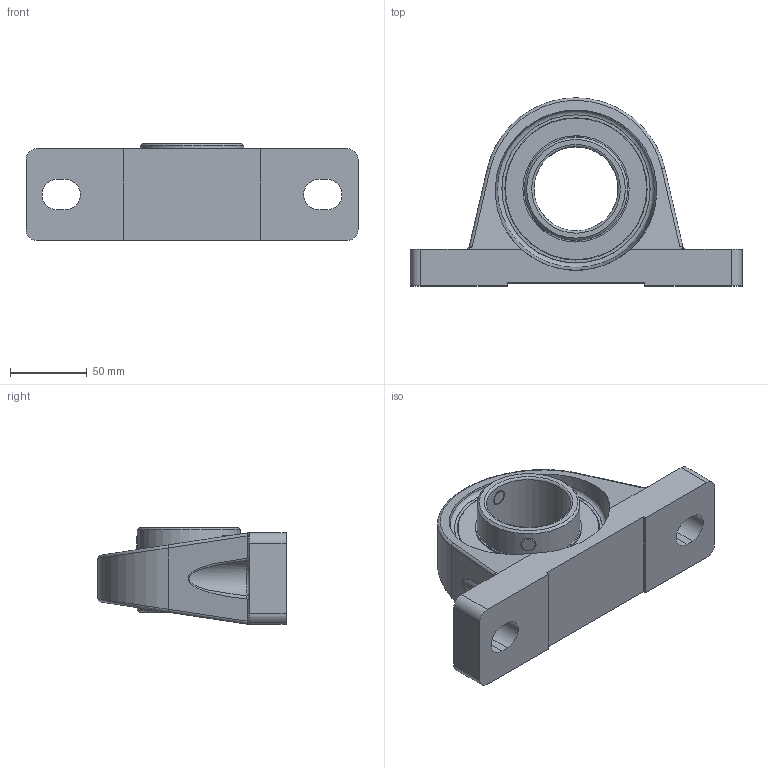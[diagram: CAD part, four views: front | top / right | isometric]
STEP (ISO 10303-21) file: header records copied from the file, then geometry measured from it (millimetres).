
FILE_DESCRIPTION(/* description */ (''),/* implementation_level */ '2;1');
FILE_NAME(/* name */ 'C:\MOJE SUBORY\03_Doplnenie 3D modelov\nove\sgc_hotove\SGC211.stp',/* time_stamp */ '2023-06-29T10:10:26+02:00',/* author */ ('OUPIONTEKM'),/* organization */ (''),/* preprocessor_version */ 'ST-DEVELOPER v19',/* originating_system */ 'Autodesk Inventor 2023',/* authorisation */ '');
FILE_SCHEMA (('AUTOMOTIVE_DESIGN { 1 0 10303 214 3 1 1 }'));
Length unit declared in the file: millimetre
Products named in the file (10): SGC203; sg205; UC211; UC211-02; UC211-ball; UC211-01; UC211-cage; UC211-seal; M10X7; UC211-shield
Assembly tree (20 placements, depth 3):
  SGC203
    sg205
    UC211
      UC211-02
      UC211-ball  x8
      UC211-01
      UC211-cage  x2
      UC211-seal  x2
      M10X7  x2
      UC211-shield  x2
Bounding box: 217 x 123 x 63.4 mm (x, y, z)
Volume: 528869.5 mm3; surface area: 149052.7 mm2
Topology: 19 solids, 19 shells, 201 faces, 626 edges, 410 vertices
Faces by surface type: plane 79, cylinder 51, sphere 43, bspline 12, torus 8, cone 8
Full cylindrical faces by diameter (mm): 1.8 x2, 10 x4, 55 x1, 67.498 x6, 69.498 x2, 73.214 x2, 81.786 x2, 87.502 x2, 92.402 x2, 93.002 x4, 102 x1
Entity records: 6758 total; most frequent: CARTESIAN_POINT 2398, DIRECTION 918, ORIENTED_EDGE 826, EDGE_CURVE 413, AXIS2_PLACEMENT_3D 408, VERTEX_POINT 282, CIRCLE 219, EDGE_LOOP 167
